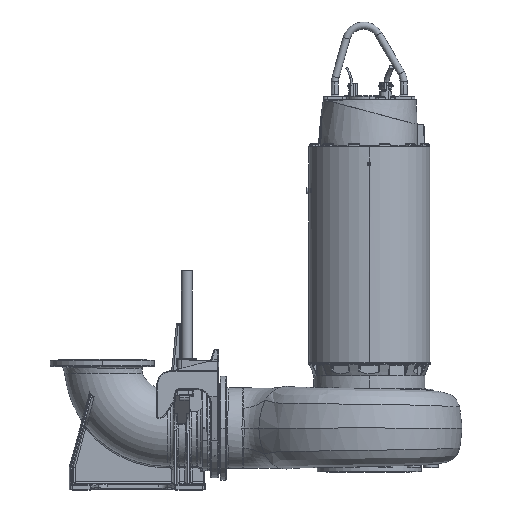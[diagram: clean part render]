
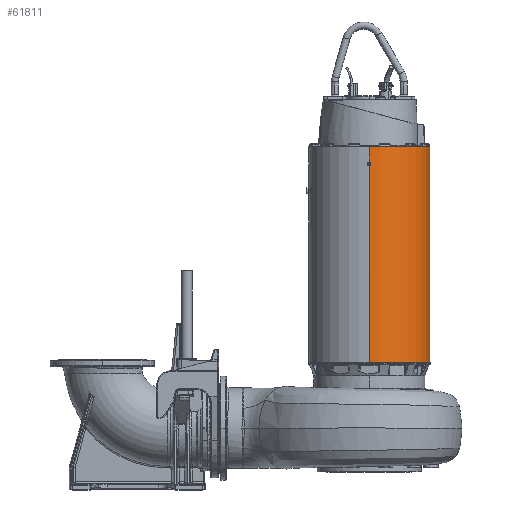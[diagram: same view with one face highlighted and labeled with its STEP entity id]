
A CAD part, top view. The second image highlights one B-rep face of the part: STEP entity #61811.
In plain terms, the highlighted cylindrical face has radius 344 mm (diameter 688 mm), a partial arc.
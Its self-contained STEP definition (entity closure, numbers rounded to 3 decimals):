
#2654 = ORIENTED_EDGE ( 'NONE', *, *, #145124, .F. ) ;
#8359 = ORIENTED_EDGE ( 'NONE', *, *, #187546, .T. ) ;
#9003 = LINE ( 'NONE', #203790, #265661 ) ;
#9310 = CARTESIAN_POINT ( 'NONE',  ( 9.5, 1099.515, -343.869 ) ) ;
#10721 = ORIENTED_EDGE ( 'NONE', *, *, #87269, .F. ) ;
#12694 = ORIENTED_EDGE ( 'NONE', *, *, #119745, .F. ) ;
#13350 = CARTESIAN_POINT ( 'NONE',  ( 9.5, 1110.485, 343.869 ) ) ;
#15092 =( BOUNDED_CURVE ( )  B_SPLINE_CURVE ( 3, ( #111696, #239518, #90230, #260857 ),
 .UNSPECIFIED., .F., .F. ) 
 B_SPLINE_CURVE_WITH_KNOTS ( ( 4, 4 ),
 ( 1.571, 1.598 ),
 .UNSPECIFIED. ) 
 CURVE ( )  GEOMETRIC_REPRESENTATION_ITEM ( )  RATIONAL_B_SPLINE_CURVE ( ( 1., 1., 1., 1. ) ) 
 REPRESENTATION_ITEM ( '' )  );
#15403 = CARTESIAN_POINT ( 'NONE',  ( 0., 0., 344. ) ) ;
#19656 = CARTESIAN_POINT ( 'NONE',  ( 9.5, 1345.349, 343.869 ) ) ;
#20338 = EDGE_CURVE ( 'NONE', #60193, #161794, #73183, .T. ) ;
#22675 = AXIS2_PLACEMENT_3D ( 'NONE', #111999, #261160, #133361 ) ;
#23253 = ORIENTED_EDGE ( 'NONE', *, *, #73995, .T. ) ;
#23945 = CARTESIAN_POINT ( 'NONE',  ( 0., 0., -344. ) ) ;
#42878 = AXIS2_PLACEMENT_3D ( 'NONE', #70023, #219239, #91407 ) ;
#47447 = VECTOR ( 'NONE', #250695, 1000. ) ;
#48384 = VECTOR ( 'NONE', #173021, 1000. ) ;
#48779 = EDGE_CURVE ( 'NONE', #139417, #252679, #211830, .T. ) ;
#57097 = CYLINDRICAL_SURFACE ( 'NONE', #121247, 344. ) ;
#59167 = CARTESIAN_POINT ( 'NONE',  ( 3.167, 1114.141, 344. ) ) ;
#59364 = CARTESIAN_POINT ( 'NONE',  ( 0., 1205., -344. ) ) ;
#60193 = VERTEX_POINT ( 'NONE', #178849 ) ;
#60708 = ORIENTED_EDGE ( 'NONE', *, *, #178209, .T. ) ;
#61811 = ADVANCED_FACE ( 'NONE', ( #247384 ), #57097, .T. ) ;
#63408 = ORIENTED_EDGE ( 'NONE', *, *, #216996, .T. ) ;
#70023 = CARTESIAN_POINT ( 'NONE',  ( 0., -20., 0. ) ) ;
#73183 = CIRCLE ( 'NONE', #42878, 344. ) ;
#73547 = CARTESIAN_POINT ( 'NONE',  ( 0., 1094.03, -344. ) ) ;
#73995 = EDGE_CURVE ( 'NONE', #139417, #97205, #268167, .T. ) ;
#74161 = DIRECTION ( 'NONE',  ( 0., -1., 0. ) ) ;
#76792 = EDGE_CURVE ( 'NONE', #120584, #251827, #150963, .T. ) ;
#80034 = CARTESIAN_POINT ( 'NONE',  ( 0., 0., -344. ) ) ;
#80615 = CARTESIAN_POINT ( 'NONE',  ( 0., 1115.97, 344. ) ) ;
#84133 = DIRECTION ( 'NONE',  ( 0., -1., 0. ) ) ;
#87269 = EDGE_CURVE ( 'NONE', #123988, #196048, #93252, .T. ) ;
#87576 = DIRECTION ( 'NONE',  ( 0., -1., 0. ) ) ;
#90230 = CARTESIAN_POINT ( 'NONE',  ( 6.334, 1112.313, -343.956 ) ) ;
#91407 = DIRECTION ( 'NONE',  ( 1., 0., 0. ) ) ;
#93252 =( BOUNDED_CURVE ( )  B_SPLINE_CURVE ( 3, ( #9310, #264608, #201364, #73547 ),
 .UNSPECIFIED., .F., .F. ) 
 B_SPLINE_CURVE_WITH_KNOTS ( ( 4, 4 ),
 ( 1.543, 1.571 ),
 .UNSPECIFIED. ) 
 CURVE ( )  GEOMETRIC_REPRESENTATION_ITEM ( )  RATIONAL_B_SPLINE_CURVE ( ( 1., 1., 1., 1. ) ) 
 REPRESENTATION_ITEM ( '' )  );
#96453 = DIRECTION ( 'NONE',  ( 0., 0., -1. ) ) ;
#97205 = VERTEX_POINT ( 'NONE', #127115 ) ;
#97589 = ORIENTED_EDGE ( 'NONE', *, *, #164392, .F. ) ;
#104053 = LINE ( 'NONE', #80034, #47447 ) ;
#108195 = CARTESIAN_POINT ( 'NONE',  ( 9.5, 1099.515, 343.869 ) ) ;
#109828 = CARTESIAN_POINT ( 'NONE',  ( 9.5, 1099.515, 343.869 ) ) ;
#110339 = EDGE_CURVE ( 'NONE', #211813, #120584, #116387, .T. ) ;
#111089 = LINE ( 'NONE', #15403, #161216 ) ;
#111696 = CARTESIAN_POINT ( 'NONE',  ( 0., 1115.97, -344. ) ) ;
#111999 = CARTESIAN_POINT ( 'NONE',  ( 0., 1205., 0. ) ) ;
#116387 =( BOUNDED_CURVE ( )  B_SPLINE_CURVE ( 3, ( #80615, #59167, #186960, #229813 ),
 .UNSPECIFIED., .F., .F. ) 
 B_SPLINE_CURVE_WITH_KNOTS ( ( 4, 4 ),
 ( 1.571, 1.598 ),
 .UNSPECIFIED. ) 
 CURVE ( )  GEOMETRIC_REPRESENTATION_ITEM ( )  RATIONAL_B_SPLINE_CURVE ( ( 1., 1., 1., 1. ) ) 
 REPRESENTATION_ITEM ( '' )  );
#117831 = DIRECTION ( 'NONE',  ( 0., -1., 0. ) ) ;
#119745 = EDGE_CURVE ( 'NONE', #196048, #60193, #104053, .T. ) ;
#120584 = VERTEX_POINT ( 'NONE', #13350 ) ;
#121247 = AXIS2_PLACEMENT_3D ( 'NONE', #244830, #74161, #96453 ) ;
#121415 = DIRECTION ( 'NONE',  ( 0., -1., 0. ) ) ;
#123988 = VERTEX_POINT ( 'NONE', #214683 ) ;
#126850 = CARTESIAN_POINT ( 'NONE',  ( 9.5, 1345.349, -343.869 ) ) ;
#127115 = CARTESIAN_POINT ( 'NONE',  ( 0., 1205., 344. ) ) ;
#129307 = VECTOR ( 'NONE', #84133, 1000. ) ;
#130432 = CARTESIAN_POINT ( 'NONE',  ( 0., 1094.03, 344. ) ) ;
#133361 = DIRECTION ( 'NONE',  ( 0., 0., -1. ) ) ;
#135559 = EDGE_LOOP ( 'NONE', ( #23253, #8359, #174659, #196258, #60708, #63408, #218983, #12694, #10721, #97589, #2654, #182642 ) ) ;
#139127 = CARTESIAN_POINT ( 'NONE',  ( 0., 1115.97, -344. ) ) ;
#139417 = VERTEX_POINT ( 'NONE', #59364 ) ;
#145111 =( BOUNDED_CURVE ( )  B_SPLINE_CURVE ( 3, ( #108195, #236945, #258240, #130432 ),
 .UNSPECIFIED., .F., .F. ) 
 B_SPLINE_CURVE_WITH_KNOTS ( ( 4, 4 ),
 ( 1.543, 1.571 ),
 .UNSPECIFIED. ) 
 CURVE ( )  GEOMETRIC_REPRESENTATION_ITEM ( )  RATIONAL_B_SPLINE_CURVE ( ( 1., 1., 1., 1. ) ) 
 REPRESENTATION_ITEM ( '' )  );
#145124 = EDGE_CURVE ( 'NONE', #252679, #171167, #15092, .T. ) ;
#145476 = CARTESIAN_POINT ( 'NONE',  ( 9.5, 1110.485, -343.869 ) ) ;
#150963 = LINE ( 'NONE', #19656, #207708 ) ;
#161216 = VECTOR ( 'NONE', #121415, 1000. ) ;
#161794 = VERTEX_POINT ( 'NONE', #191101 ) ;
#164392 = EDGE_CURVE ( 'NONE', #171167, #123988, #242977, .T. ) ;
#171167 = VERTEX_POINT ( 'NONE', #145476 ) ;
#173021 = DIRECTION ( 'NONE',  ( 0., -1., 0. ) ) ;
#174659 = ORIENTED_EDGE ( 'NONE', *, *, #110339, .T. ) ;
#178209 = EDGE_CURVE ( 'NONE', #251827, #226439, #145111, .T. ) ;
#178849 = CARTESIAN_POINT ( 'NONE',  ( 0., -20., -344. ) ) ;
#182642 = ORIENTED_EDGE ( 'NONE', *, *, #48779, .F. ) ;
#186960 = CARTESIAN_POINT ( 'NONE',  ( 6.334, 1112.313, 343.956 ) ) ;
#187546 = EDGE_CURVE ( 'NONE', #97205, #211813, #111089, .T. ) ;
#191101 = CARTESIAN_POINT ( 'NONE',  ( 0., -20., 344. ) ) ;
#196048 = VERTEX_POINT ( 'NONE', #273844 ) ;
#196258 = ORIENTED_EDGE ( 'NONE', *, *, #76792, .T. ) ;
#199854 = CARTESIAN_POINT ( 'NONE',  ( 0., 1115.97, 344. ) ) ;
#201364 = CARTESIAN_POINT ( 'NONE',  ( 3.167, 1095.859, -344. ) ) ;
#203790 = CARTESIAN_POINT ( 'NONE',  ( 0., 0., 344. ) ) ;
#207708 = VECTOR ( 'NONE', #87576, 1000. ) ;
#211813 = VERTEX_POINT ( 'NONE', #199854 ) ;
#211830 = LINE ( 'NONE', #23945, #48384 ) ;
#214683 = CARTESIAN_POINT ( 'NONE',  ( 9.5, 1099.515, -343.869 ) ) ;
#216996 = EDGE_CURVE ( 'NONE', #226439, #161794, #9003, .T. ) ;
#218046 = CARTESIAN_POINT ( 'NONE',  ( 0., 1094.03, 344. ) ) ;
#218983 = ORIENTED_EDGE ( 'NONE', *, *, #20338, .F. ) ;
#219239 = DIRECTION ( 'NONE',  ( 0., -1., 0. ) ) ;
#226439 = VERTEX_POINT ( 'NONE', #218046 ) ;
#229813 = CARTESIAN_POINT ( 'NONE',  ( 9.5, 1110.485, 343.869 ) ) ;
#236945 = CARTESIAN_POINT ( 'NONE',  ( 6.334, 1097.687, 343.956 ) ) ;
#239518 = CARTESIAN_POINT ( 'NONE',  ( 3.167, 1114.141, -344. ) ) ;
#242977 = LINE ( 'NONE', #126850, #129307 ) ;
#244830 = CARTESIAN_POINT ( 'NONE',  ( 0., 0., 0. ) ) ;
#247384 = FACE_OUTER_BOUND ( 'NONE', #135559, .T. ) ;
#250695 = DIRECTION ( 'NONE',  ( 0., -1., 0. ) ) ;
#251827 = VERTEX_POINT ( 'NONE', #109828 ) ;
#252679 = VERTEX_POINT ( 'NONE', #139127 ) ;
#258240 = CARTESIAN_POINT ( 'NONE',  ( 3.167, 1095.859, 344. ) ) ;
#260857 = CARTESIAN_POINT ( 'NONE',  ( 9.5, 1110.485, -343.869 ) ) ;
#261160 = DIRECTION ( 'NONE',  ( 0., -1., 0. ) ) ;
#264608 = CARTESIAN_POINT ( 'NONE',  ( 6.334, 1097.687, -343.956 ) ) ;
#265661 = VECTOR ( 'NONE', #117831, 1000. ) ;
#268167 = CIRCLE ( 'NONE', #22675, 344. ) ;
#273844 = CARTESIAN_POINT ( 'NONE',  ( 0., 1094.03, -344. ) ) ;
